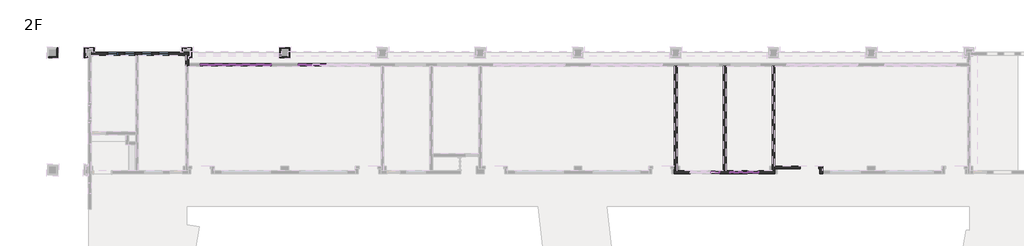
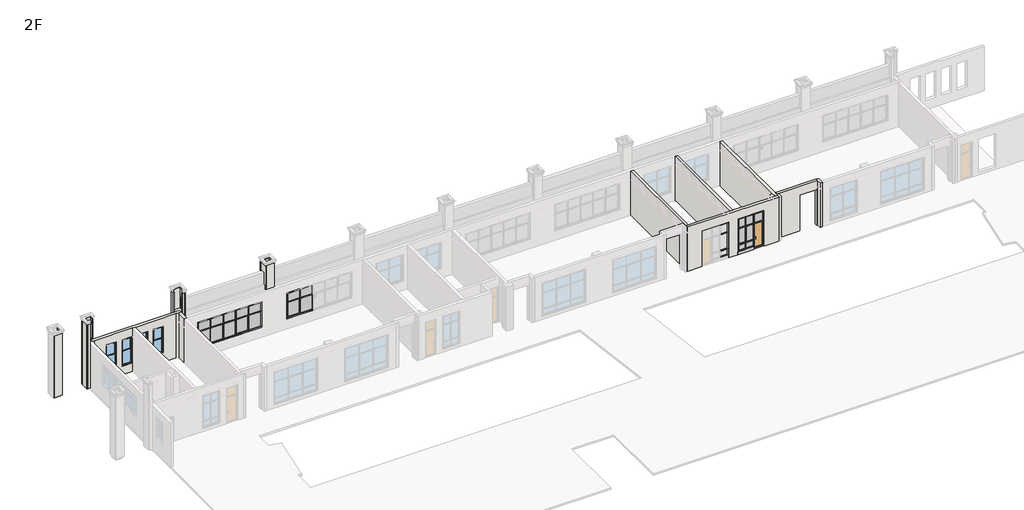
# One storey, part 5 of 16: 63 members, 22 walls, 18 plates, 4 windows, 1 door.
"""IFC4 building model written with IfcOpenShell, lengths in millimetres."""

from ifc_helpers import new_model, si_unit, frame, origin, place, context, project, spatial, polyline, outline, extrude, faceted_brep, transform, mapped, element, save
from components import door_980b777d, member_bb6b3e5c, member_c7345f5c, member_c89433b5, member_21953a3b, member_4507a15d, member_d4bc27cc, member_3251d295, member_9c26cac3, member_f9d68b3c, member_ef2f5788, member_68d13e3f, member_a211941a, member_adcc9943, member_f478ca5a, member_964d2677, member_b8dbbb25, member_8a69f4a4, member_fbd0fd80, member_b6ae775c, member_7564be38, member_1f4d75dd, member_0b7842ad, member_163d5e45, member_ffafc35e, member_2b011958, member_6c42befd, member_a374fdad, plate_457c613e, plate_cc9028c0, plate_1c3dccf0, plate_bfe47d88, plate_3a849303, plate_0b4a2fd4, plate_75e73fbb, plate_f4dba16c, plate_1cc4df2b, plate_4fa5932a, plate_00f9c624, lc1_lc1_4d7fae2d

model = new_model("IFC4")

# Units and contexts
model_context = context("Model", 3, world=origin())
ifc_project = project(units=[si_unit("LENGTHUNIT", "METRE", prefix="MILLI")], contexts=[model_context])

# Site, building, storey
site = spatial("IfcSite", under=ifc_project)
building = spatial("IfcBuilding", under=site)
storey = spatial("IfcBuildingStorey", under=building, Name="2F", Elevation=4200.0)

# Door
placement = place(None, origin())
door_shape = door_980b777d(model_context)
element("IfcDoor", 1, ObjectType="门嵌板_单开门2 : 门嵌板_单开门2", at=placement, inside=storey, context=model_context, shape_type="MappedRepresentation", body=[
    mapped(door_shape, transform((57300.0000032, 23399.6954639, 4300.0), x_axis=(1.0, 0.0, 0.0), y_axis=(0.0, 1.0, 0.0), z_axis=(0.0, 0.0, 1.0))),
])

# Members
member_shape = member_bb6b3e5c(model_context)
element("IfcMember", 2, ObjectType="矩形竖梃 : 教学楼 – 矩形竖梃 – 100x150mm", at=placement, inside=storey, context=model_context, shape_type="MappedRepresentation", body=[
    mapped(member_shape, transform((54599.9999997, 23399.6954639, 7600.0), x_axis=(0.0, 0.0, 1.0), y_axis=(0.0, -1.0, 0.0), z_axis=(1.0, 0.0, 0.0))),
])
member_2_shape = member_c7345f5c(model_context)
element("IfcMember", 3, ObjectType="矩形竖梃 : 教学楼 – 矩形竖梃 – 50x150mm", at=placement, inside=storey, context=model_context, shape_type="MappedRepresentation", body=[
    mapped(member_2_shape, transform((54499.9999997, 23399.6954639, 6625.0), x_axis=(0.0, 0.0, 1.0), y_axis=(0.0, -1.0, 0.0), z_axis=(1.0, 0.0, 0.0))),
])
element("IfcMember", 4, ObjectType="矩形竖梃 : 教学楼 – 矩形竖梃 – 50x150mm", at=placement, inside=storey, context=model_context, shape_type="MappedRepresentation", body=[
    mapped(member_2_shape, transform((54499.9999997, 23399.6954639, 5075.0), x_axis=(0.0, 0.0, 1.0), y_axis=(0.0, -1.0, 0.0), z_axis=(1.0, 0.0, 0.0))),
])
element("IfcMember", 5, ObjectType="矩形竖梃 : 教学楼 – 矩形竖梃 – 50x150mm", at=placement, inside=storey, context=model_context, shape_type="MappedRepresentation", body=[
    mapped(member_2_shape, transform((54499.9999997, 23399.6954639, 4500.0), x_axis=(0.0, 0.0, 1.0), y_axis=(0.0, -1.0, 0.0), z_axis=(1.0, 0.0, 0.0))),
])
member_3_shape = member_c89433b5(model_context)
element("IfcMember", 6, ObjectType="矩形竖梃 : 教学楼 – 矩形竖梃 – 100x150mm", at=placement, inside=storey, context=model_context, shape_type="MappedRepresentation", body=[
    mapped(member_3_shape, transform((54599.9999997, 23399.6954639, 6625.0), x_axis=(1.0, 0.0, 0.0), y_axis=(0.0, -1.0, 0.0), z_axis=(0.0, 0.0, -1.0))),
])
member_4_shape = member_21953a3b(model_context)
element("IfcMember", 7, ObjectType="矩形竖梃 : 教学楼 – 矩形竖梃 – 100x150mm", at=placement, inside=storey, context=model_context, shape_type="MappedRepresentation", body=[
    mapped(member_4_shape, transform((54599.9999997, 23399.6954639, 5075.0), x_axis=(1.0, 0.0, 0.0), y_axis=(0.0, -1.0, 0.0), z_axis=(0.0, 0.0, -1.0))),
])
member_5_shape = member_4507a15d(model_context)
element("IfcMember", 8, ObjectType="矩形竖梃 : 教学楼 – 矩形竖梃 – 100x150mm", at=placement, inside=storey, context=model_context, shape_type="MappedRepresentation", body=[
    mapped(member_5_shape, transform((54599.9999997, 23399.6954639, 4475.0), x_axis=(1.0, 0.0, 0.0), y_axis=(0.0, -1.0, 0.0), z_axis=(0.0, 0.0, -1.0))),
])
element("IfcMember", 9, ObjectType="矩形竖梃 : 教学楼 – 矩形竖梃 – 100x150mm", at=placement, inside=storey, context=model_context, shape_type="MappedRepresentation", body=[
    mapped(member_shape, transform((55400.0000029, 23399.6954639, 7600.0), x_axis=(0.0, 0.0, 1.0), y_axis=(0.0, 1.0, 0.0), z_axis=(-1.0, 0.0, 0.0))),
])
member_6_shape = member_d4bc27cc(model_context)
element("IfcMember", 10, ObjectType="矩形竖梃 : 教学楼 – 矩形竖梃 – 100x150mm", at=placement, inside=storey, context=model_context, shape_type="MappedRepresentation", body=[
    mapped(member_6_shape, transform((57800.0000032, 23399.6954639, 4200.0), x_axis=(0.0, 0.0, -1.0), y_axis=(0.0, 1.0, 0.0), z_axis=(1.0, 0.0, 0.0))),
])
member_7_shape = member_3251d295(model_context)
element("IfcMember", 11, ObjectType="矩形竖梃 : 教学楼 – 矩形竖梃 – 50x150mm", at=placement, inside=storey, context=model_context, shape_type="MappedRepresentation", body=[
    mapped(member_7_shape, transform((56875.0000032, 23399.6954639, 4300.0), x_axis=(-1.0, 0.0, 0.0), y_axis=(0.0, 1.0, 0.0), z_axis=(0.0, 0.0, -1.0))),
])
member_8_shape = member_9c26cac3(model_context)
element("IfcMember", 12, ObjectType="矩形竖梃 : 教学楼 – 矩形竖梃 – 50x150mm", at=placement, inside=storey, context=model_context, shape_type="MappedRepresentation", body=[
    mapped(member_8_shape, transform((56875.0000032, 23399.6954639, 6625.0), x_axis=(0.0, 0.0, 1.0), y_axis=(0.0, 1.0, 0.0), z_axis=(-1.0, 0.0, 0.0))),
])
member_9_shape = member_f9d68b3c(model_context)
element("IfcMember", 13, ObjectType="矩形竖梃 : 教学楼 – 矩形竖梃 – 50x150mm", at=placement, inside=storey, context=model_context, shape_type="MappedRepresentation", body=[
    mapped(member_9_shape, transform((56125.0000029, 23399.6954639, 6625.0), x_axis=(0.0, 0.0, 1.0), y_axis=(0.0, 1.0, 0.0), z_axis=(-1.0, 0.0, 0.0))),
])
element("IfcMember", 14, ObjectType="矩形竖梃 : 教学楼 – 矩形竖梃 – 50x150mm", at=placement, inside=storey, context=model_context, shape_type="MappedRepresentation", body=[
    mapped(member_2_shape, transform((55500.0000029, 23399.6954639, 6625.0), x_axis=(0.0, 0.0, 1.0), y_axis=(0.0, 1.0, 0.0), z_axis=(-1.0, 0.0, 0.0))),
])
element("IfcMember", 15, ObjectType="矩形竖梃 : 教学楼 – 矩形竖梃 – 50x150mm", at=placement, inside=storey, context=model_context, shape_type="MappedRepresentation", body=[
    mapped(member_2_shape, transform((55500.0000029, 23399.6954639, 5075.0), x_axis=(0.0, 0.0, 1.0), y_axis=(0.0, 1.0, 0.0), z_axis=(-1.0, 0.0, 0.0))),
])
element("IfcMember", 16, ObjectType="矩形竖梃 : 教学楼 – 矩形竖梃 – 50x150mm", at=placement, inside=storey, context=model_context, shape_type="MappedRepresentation", body=[
    mapped(member_2_shape, transform((55500.0000029, 23399.6954639, 4500.0), x_axis=(0.0, 0.0, 1.0), y_axis=(0.0, 1.0, 0.0), z_axis=(-1.0, 0.0, 0.0))),
])
member_10_shape = member_ef2f5788(model_context)
element("IfcMember", 17, ObjectType="矩形竖梃 : 教学楼 – 矩形竖梃 – 50x150mm", at=placement, inside=storey, context=model_context, shape_type="MappedRepresentation", body=[
    mapped(member_10_shape, transform((56125.0000029, 23399.6954639, 5075.0), x_axis=(0.0, 0.0, 1.0), y_axis=(0.0, 1.0, 0.0), z_axis=(-1.0, 0.0, 0.0))),
])
member_11_shape = member_68d13e3f(model_context)
element("IfcMember", 18, ObjectType="矩形竖梃 : 教学楼 – 矩形竖梃 – 50x150mm", at=placement, inside=storey, context=model_context, shape_type="MappedRepresentation", body=[
    mapped(member_11_shape, transform((56125.0000029, 23399.6954639, 4500.0), x_axis=(0.0, 0.0, 1.0), y_axis=(0.0, 1.0, 0.0), z_axis=(-1.0, 0.0, 0.0))),
])
member_12_shape = member_a211941a(model_context)
element("IfcMember", 19, ObjectType="矩形竖梃 : 教学楼 – 矩形竖梃 – 100x150mm", at=placement, inside=storey, context=model_context, shape_type="MappedRepresentation", body=[
    mapped(member_12_shape, transform((56875.0000032, 23399.6954639, 7600.0), x_axis=(0.0, 0.0, 1.0), y_axis=(0.0, 1.0, 0.0), z_axis=(-1.0, 0.0, 0.0))),
])
member_13_shape = member_adcc9943(model_context)
element("IfcMember", 20, ObjectType="矩形竖梃 : 教学楼 – 矩形竖梃 – 100x150mm", at=placement, inside=storey, context=model_context, shape_type="MappedRepresentation", body=[
    mapped(member_13_shape, transform((56125.0000029, 23399.6954639, 7600.0), x_axis=(0.0, 0.0, 1.0), y_axis=(0.0, 1.0, 0.0), z_axis=(-1.0, 0.0, 0.0))),
])
member_14_shape = member_f478ca5a(model_context)
element("IfcMember", 21, ObjectType="矩形竖梃 : 教学楼 – 矩形竖梃 – 50x150mm", at=placement, inside=storey, context=model_context, shape_type="MappedRepresentation", body=[
    mapped(member_14_shape, transform((56875.0000032, 23399.6954639, 6650.0), x_axis=(-1.0, 0.0, 0.0), y_axis=(0.0, 1.0, 0.0), z_axis=(0.0, 0.0, -1.0))),
])
element("IfcMember", 22, ObjectType="矩形竖梃 : 教学楼 – 矩形竖梃 – 50x150mm", at=placement, inside=storey, context=model_context, shape_type="MappedRepresentation", body=[
    mapped(member_14_shape, transform((56125.0000029, 23399.6954639, 6650.0), x_axis=(-1.0, 0.0, 0.0), y_axis=(0.0, 1.0, 0.0), z_axis=(0.0, 0.0, -1.0))),
])
member_15_shape = member_964d2677(model_context)
element("IfcMember", 23, ObjectType="矩形竖梃 : 教学楼 – 矩形竖梃 – 50x150mm", at=placement, inside=storey, context=model_context, shape_type="MappedRepresentation", body=[
    mapped(member_15_shape, transform((56875.0000032, 23399.6954639, 5100.0), x_axis=(-1.0, 0.0, 0.0), y_axis=(0.0, 1.0, 0.0), z_axis=(0.0, 0.0, -1.0))),
])
member_16_shape = member_b8dbbb25(model_context)
element("IfcMember", 24, ObjectType="矩形竖梃 : 教学楼 – 矩形竖梃 – 50x150mm", at=placement, inside=storey, context=model_context, shape_type="MappedRepresentation", body=[
    mapped(member_16_shape, transform((56875.0000032, 23399.6954639, 4500.0), x_axis=(-1.0, 0.0, 0.0), y_axis=(0.0, 1.0, 0.0), z_axis=(0.0, 0.0, -1.0))),
])
member_17_shape = member_8a69f4a4(model_context)
element("IfcMember", 25, ObjectType="矩形竖梃 : 教学楼 – 矩形竖梃 – 50x150mm", at=placement, inside=storey, context=model_context, shape_type="MappedRepresentation", body=[
    mapped(member_17_shape, transform((56125.0000029, 23399.6954639, 4525.0), x_axis=(-1.0, 0.0, 0.0), y_axis=(0.0, 1.0, 0.0), z_axis=(0.0, 0.0, -1.0))),
])
element("IfcMember", 26, ObjectType="矩形竖梃 : 教学楼 – 矩形竖梃 – 100x150mm", at=placement, inside=storey, context=model_context, shape_type="MappedRepresentation", body=[
    mapped(member_3_shape, transform((57800.0000032, 23399.6954639, 7500.0), x_axis=(1.0, 0.0, 0.0), y_axis=(0.0, 1.0, 0.0), z_axis=(0.0, 0.0, 1.0))),
])
element("IfcMember", 27, ObjectType="矩形竖梃 : 教学楼 – 矩形竖梃 – 100x150mm", at=placement, inside=storey, context=model_context, shape_type="MappedRepresentation", body=[
    mapped(member_3_shape, transform((55400.0000029, 23399.6954639, 6625.0), x_axis=(-1.0, 0.0, 0.0), y_axis=(0.0, 1.0, 0.0), z_axis=(0.0, 0.0, -1.0))),
])
element("IfcMember", 28, ObjectType="矩形竖梃 : 教学楼 – 矩形竖梃 – 100x150mm", at=placement, inside=storey, context=model_context, shape_type="MappedRepresentation", body=[
    mapped(member_4_shape, transform((55400.0000029, 23399.6954639, 5075.0), x_axis=(-1.0, 0.0, 0.0), y_axis=(0.0, 1.0, 0.0), z_axis=(0.0, 0.0, -1.0))),
])
element("IfcMember", 29, ObjectType="矩形竖梃 : 教学楼 – 矩形竖梃 – 100x150mm", at=placement, inside=storey, context=model_context, shape_type="MappedRepresentation", body=[
    mapped(member_5_shape, transform((55400.0000029, 23399.6954639, 4475.0), x_axis=(-1.0, 0.0, 0.0), y_axis=(0.0, 1.0, 0.0), z_axis=(0.0, 0.0, -1.0))),
])
element("IfcMember", 30, ObjectType="矩形竖梃 : 教学楼 – 矩形竖梃 – 100x150mm", at=placement, inside=storey, context=model_context, shape_type="MappedRepresentation", body=[
    mapped(member_4_shape, transform((57800.0000032, 23399.6954639, 6625.0), x_axis=(1.0, 0.0, 0.0), y_axis=(0.0, 1.0, 0.0), z_axis=(0.0, 0.0, 1.0))),
])
member_18_shape = member_fbd0fd80(model_context)
element("IfcMember", 31, ObjectType="矩形竖梃 : 教学楼 – 矩形竖梃 – 100x150mm", at=placement, inside=storey, context=model_context, shape_type="MappedRepresentation", body=[
    mapped(member_18_shape, transform((57800.0000032, 23399.6954639, 5075.0), x_axis=(1.0, 0.0, 0.0), y_axis=(0.0, 1.0, 0.0), z_axis=(0.0, 0.0, 1.0))),
])
member_19_shape = member_b6ae775c(model_context)
element("IfcMember", 32, ObjectType="矩形竖梃 : 教学楼 – 矩形竖梃 – 100x150mm", at=placement, inside=storey, context=model_context, shape_type="MappedRepresentation", body=[
    mapped(member_19_shape, transform((57800.0000032, 23399.6954639, 4500.0), x_axis=(1.0, 0.0, 0.0), y_axis=(0.0, 1.0, 0.0), z_axis=(0.0, 0.0, 1.0))),
])
member_20_shape = member_7564be38(model_context)
element("IfcMember", 33, ObjectType="矩形竖梃 : 教学楼 – 矩形竖梃 – 100x150mm", at=placement, inside=storey, context=model_context, shape_type="MappedRepresentation", body=[
    mapped(member_20_shape, transform((17900.0000002, 32210.0, 7600.0), x_axis=(0.0, 0.0, 1.0), y_axis=(0.0, -1.0, 0.0), z_axis=(1.0, 0.0, 0.0))),
])
element("IfcMember", 34, ObjectType="矩形竖梃 : 教学楼 – 矩形竖梃 – 100x150mm", at=placement, inside=storey, context=model_context, shape_type="MappedRepresentation", body=[
    mapped(member_20_shape, transform((12100.0000002, 32210.0, 5100.0), x_axis=(0.0, 0.0, -1.0), y_axis=(0.0, -1.0, 0.0), z_axis=(-1.0, 0.0, 0.0))),
])
element("IfcMember", 35, ObjectType="矩形竖梃 : 教学楼 – 矩形竖梃 – 100x150mm", at=placement, inside=storey, context=model_context, shape_type="MappedRepresentation", body=[
    mapped(member_20_shape, transform((20099.9999995, 32210.0, 5100.0), x_axis=(0.0, 0.0, -1.0), y_axis=(0.0, -1.0, 0.0), z_axis=(-1.0, 0.0, 0.0))),
])
member_21_shape = member_1f4d75dd(model_context)
element("IfcMember", 36, ObjectType="矩形竖梃 : 教学楼 – 矩形竖梃 – 50x150mm", at=placement, inside=storey, context=model_context, shape_type="MappedRepresentation", body=[
    mapped(member_21_shape, transform((14450.0000002, 32210.0, 5200.0), x_axis=(1.0, 0.0, 0.0), y_axis=(0.0, -1.0, 0.0), z_axis=(0.0, 0.0, -1.0))),
])
element("IfcMember", 37, ObjectType="矩形竖梃 : 教学楼 – 矩形竖梃 – 50x150mm", at=placement, inside=storey, context=model_context, shape_type="MappedRepresentation", body=[
    mapped(member_21_shape, transform((15550.0000002, 32210.0, 5200.0), x_axis=(1.0, 0.0, 0.0), y_axis=(0.0, -1.0, 0.0), z_axis=(0.0, 0.0, -1.0))),
])
member_22_shape = member_0b7842ad(model_context)
element("IfcMember", 38, ObjectType="矩形竖梃 : 教学楼 – 矩形竖梃 – 50x150mm", at=placement, inside=storey, context=model_context, shape_type="MappedRepresentation", body=[
    mapped(member_22_shape, transform((13300.0000002, 32210.0, 6650.0), x_axis=(0.0, 0.0, 1.0), y_axis=(0.0, -1.0, 0.0), z_axis=(1.0, 0.0, 0.0))),
])
element("IfcMember", 39, ObjectType="矩形竖梃 : 教学楼 – 矩形竖梃 – 50x150mm", at=placement, inside=storey, context=model_context, shape_type="MappedRepresentation", body=[
    mapped(member_22_shape, transform((21299.9999995, 32210.0, 6650.0), x_axis=(0.0, 0.0, 1.0), y_axis=(0.0, -1.0, 0.0), z_axis=(1.0, 0.0, 0.0))),
])
member_23_shape = member_163d5e45(model_context)
element("IfcMember", 40, ObjectType="矩形竖梃 : 教学楼 – 矩形竖梃 – 50x150mm", at=placement, inside=storey, context=model_context, shape_type="MappedRepresentation", body=[
    mapped(member_23_shape, transform((14450.0000002, 32210.0, 6650.0), x_axis=(0.0, 0.0, 1.0), y_axis=(0.0, -1.0, 0.0), z_axis=(1.0, 0.0, 0.0))),
])
element("IfcMember", 41, ObjectType="矩形竖梃 : 教学楼 – 矩形竖梃 – 50x150mm", at=placement, inside=storey, context=model_context, shape_type="MappedRepresentation", body=[
    mapped(member_23_shape, transform((16700.0000002, 32210.0, 6650.0), x_axis=(0.0, 0.0, 1.0), y_axis=(0.0, -1.0, 0.0), z_axis=(1.0, 0.0, 0.0))),
])
element("IfcMember", 42, ObjectType="矩形竖梃 : 教学楼 – 矩形竖梃 – 50x150mm", at=placement, inside=storey, context=model_context, shape_type="MappedRepresentation", body=[
    mapped(member_22_shape, transform((15550.0000002, 32210.0, 6650.0), x_axis=(0.0, 0.0, 1.0), y_axis=(0.0, -1.0, 0.0), z_axis=(1.0, 0.0, 0.0))),
])
element("IfcMember", 43, ObjectType="矩形竖梃 : 教学楼 – 矩形竖梃 – 50x150mm", at=placement, inside=storey, context=model_context, shape_type="MappedRepresentation", body=[
    mapped(member_22_shape, transform((17800.0000002, 32210.0, 6650.0), x_axis=(0.0, 0.0, 1.0), y_axis=(0.0, -1.0, 0.0), z_axis=(1.0, 0.0, 0.0))),
])
member_24_shape = member_ffafc35e(model_context)
element("IfcMember", 44, ObjectType="矩形竖梃 : 教学楼 – 矩形竖梃 – 100x150mm", at=placement, inside=storey, context=model_context, shape_type="MappedRepresentation", body=[
    mapped(member_24_shape, transform((13300.0000002, 32210.0, 5100.0), x_axis=(0.0, 0.0, -1.0), y_axis=(0.0, -1.0, 0.0), z_axis=(-1.0, 0.0, 0.0))),
])
element("IfcMember", 45, ObjectType="矩形竖梃 : 教学楼 – 矩形竖梃 – 100x150mm", at=placement, inside=storey, context=model_context, shape_type="MappedRepresentation", body=[
    mapped(member_24_shape, transform((21299.9999995, 32210.0, 5100.0), x_axis=(0.0, 0.0, -1.0), y_axis=(0.0, -1.0, 0.0), z_axis=(-1.0, 0.0, 0.0))),
])
member_25_shape = member_2b011958(model_context)
element("IfcMember", 46, ObjectType="矩形竖梃 : 教学楼 – 矩形竖梃 – 100x150mm", at=placement, inside=storey, context=model_context, shape_type="MappedRepresentation", body=[
    mapped(member_25_shape, transform((14450.0000002, 32210.0, 5100.0), x_axis=(0.0, 0.0, -1.0), y_axis=(0.0, -1.0, 0.0), z_axis=(-1.0, 0.0, 0.0))),
])
element("IfcMember", 47, ObjectType="矩形竖梃 : 教学楼 – 矩形竖梃 – 100x150mm", at=placement, inside=storey, context=model_context, shape_type="MappedRepresentation", body=[
    mapped(member_24_shape, transform((15550.0000002, 32210.0, 5100.0), x_axis=(0.0, 0.0, -1.0), y_axis=(0.0, -1.0, 0.0), z_axis=(-1.0, 0.0, 0.0))),
])
element("IfcMember", 48, ObjectType="矩形竖梃 : 教学楼 – 矩形竖梃 – 100x150mm", at=placement, inside=storey, context=model_context, shape_type="MappedRepresentation", body=[
    mapped(member_20_shape, transform((16700.0000002, 32210.0, 5100.0), x_axis=(0.0, 0.0, -1.0), y_axis=(0.0, -1.0, 0.0), z_axis=(-1.0, 0.0, 0.0))),
])
element("IfcMember", 49, ObjectType="矩形竖梃 : 教学楼 – 矩形竖梃 – 100x150mm", at=placement, inside=storey, context=model_context, shape_type="MappedRepresentation", body=[
    mapped(member_20_shape, transform((13300.0000002, 32210.0, 7600.0), x_axis=(0.0, 0.0, 1.0), y_axis=(0.0, -1.0, 0.0), z_axis=(1.0, 0.0, 0.0))),
])
element("IfcMember", 50, ObjectType="矩形竖梃 : 教学楼 – 矩形竖梃 – 100x150mm", at=placement, inside=storey, context=model_context, shape_type="MappedRepresentation", body=[
    mapped(member_20_shape, transform((21299.9999995, 32210.0, 7600.0), x_axis=(0.0, 0.0, 1.0), y_axis=(0.0, -1.0, 0.0), z_axis=(1.0, 0.0, 0.0))),
])
element("IfcMember", 51, ObjectType="矩形竖梃 : 教学楼 – 矩形竖梃 – 100x150mm", at=placement, inside=storey, context=model_context, shape_type="MappedRepresentation", body=[
    mapped(member_24_shape, transform((14450.0000002, 32210.0, 7600.0), x_axis=(0.0, 0.0, 1.0), y_axis=(0.0, -1.0, 0.0), z_axis=(1.0, 0.0, 0.0))),
])
element("IfcMember", 52, ObjectType="矩形竖梃 : 教学楼 – 矩形竖梃 – 100x150mm", at=placement, inside=storey, context=model_context, shape_type="MappedRepresentation", body=[
    mapped(member_24_shape, transform((16700.0000002, 32210.0, 7600.0), x_axis=(0.0, 0.0, 1.0), y_axis=(0.0, -1.0, 0.0), z_axis=(1.0, 0.0, 0.0))),
])
element("IfcMember", 53, ObjectType="矩形竖梃 : 教学楼 – 矩形竖梃 – 100x150mm", at=placement, inside=storey, context=model_context, shape_type="MappedRepresentation", body=[
    mapped(member_25_shape, transform((15550.0000002, 32210.0, 7600.0), x_axis=(0.0, 0.0, 1.0), y_axis=(0.0, -1.0, 0.0), z_axis=(1.0, 0.0, 0.0))),
])
element("IfcMember", 54, ObjectType="矩形竖梃 : 教学楼 – 矩形竖梃 – 50x150mm", at=placement, inside=storey, context=model_context, shape_type="MappedRepresentation", body=[
    mapped(member_8_shape, transform((13300.0000002, 32210.0, 6675.0), x_axis=(1.0, 0.0, 0.0), y_axis=(0.0, -1.0, 0.0), z_axis=(0.0, 0.0, -1.0))),
])
element("IfcMember", 55, ObjectType="矩形竖梃 : 教学楼 – 矩形竖梃 – 50x150mm", at=placement, inside=storey, context=model_context, shape_type="MappedRepresentation", body=[
    mapped(member_8_shape, transform((14450.0000002, 32210.0, 6675.0), x_axis=(1.0, 0.0, 0.0), y_axis=(0.0, -1.0, 0.0), z_axis=(0.0, 0.0, -1.0))),
])
element("IfcMember", 56, ObjectType="矩形竖梃 : 教学楼 – 矩形竖梃 – 50x150mm", at=placement, inside=storey, context=model_context, shape_type="MappedRepresentation", body=[
    mapped(member_8_shape, transform((15550.0000002, 32210.0, 6675.0), x_axis=(1.0, 0.0, 0.0), y_axis=(0.0, -1.0, 0.0), z_axis=(0.0, 0.0, -1.0))),
])
element("IfcMember", 57, ObjectType="矩形竖梃 : 教学楼 – 矩形竖梃 – 50x150mm", at=placement, inside=storey, context=model_context, shape_type="MappedRepresentation", body=[
    mapped(member_8_shape, transform((16700.0000002, 32210.0, 6675.0), x_axis=(1.0, 0.0, 0.0), y_axis=(0.0, -1.0, 0.0), z_axis=(0.0, 0.0, -1.0))),
])
element("IfcMember", 58, ObjectType="矩形竖梃 : 教学楼 – 矩形竖梃 – 50x150mm", at=placement, inside=storey, context=model_context, shape_type="MappedRepresentation", body=[
    mapped(member_8_shape, transform((21299.9999995, 32210.0, 6675.0), x_axis=(1.0, 0.0, 0.0), y_axis=(0.0, -1.0, 0.0), z_axis=(0.0, 0.0, -1.0))),
])
member_26_shape = member_6c42befd(model_context)
element("IfcMember", 59, ObjectType="矩形竖梃 : 教学楼 – 矩形竖梃 – 100x150mm", at=placement, inside=storey, context=model_context, shape_type="MappedRepresentation", body=[
    mapped(member_26_shape, transform((12100.0000002, 32210.0, 7500.0), x_axis=(-1.0, 0.0, 0.0), y_axis=(0.0, -1.0, 0.0), z_axis=(0.0, 0.0, 1.0))),
])
element("IfcMember", 60, ObjectType="矩形竖梃 : 教学楼 – 矩形竖梃 – 100x150mm", at=placement, inside=storey, context=model_context, shape_type="MappedRepresentation", body=[
    mapped(member_26_shape, transform((20099.9999995, 32210.0, 7500.0), x_axis=(-1.0, 0.0, 0.0), y_axis=(0.0, -1.0, 0.0), z_axis=(0.0, 0.0, 1.0))),
])
member_27_shape = member_a374fdad(model_context)
element("IfcMember", 61, ObjectType="矩形竖梃 : 教学楼 – 矩形竖梃 – 100x150mm", at=placement, inside=storey, context=model_context, shape_type="MappedRepresentation", body=[
    mapped(member_27_shape, transform((17900.0000002, 32210.0, 5200.0), x_axis=(1.0, 0.0, 0.0), y_axis=(0.0, -1.0, 0.0), z_axis=(0.0, 0.0, -1.0))),
])
element("IfcMember", 62, ObjectType="矩形竖梃 : 教学楼 – 矩形竖梃 – 100x150mm", at=placement, inside=storey, context=model_context, shape_type="MappedRepresentation", body=[
    mapped(member_26_shape, transform((17900.0000002, 32210.0, 6650.0), x_axis=(1.0, 0.0, 0.0), y_axis=(0.0, -1.0, 0.0), z_axis=(0.0, 0.0, -1.0))),
])
element("IfcMember", 63, ObjectType="矩形竖梃 : 教学楼 – 矩形竖梃 – 100x150mm", at=placement, inside=storey, context=model_context, shape_type="MappedRepresentation", body=[
    mapped(member_27_shape, transform((12100.0000002, 32210.0, 6650.0), x_axis=(-1.0, 0.0, 0.0), y_axis=(0.0, -1.0, 0.0), z_axis=(0.0, 0.0, 1.0))),
])
element("IfcMember", 64, ObjectType="矩形竖梃 : 教学楼 – 矩形竖梃 – 100x150mm", at=placement, inside=storey, context=model_context, shape_type="MappedRepresentation", body=[
    mapped(member_27_shape, transform((20099.9999995, 32210.0, 6650.0), x_axis=(-1.0, 0.0, 0.0), y_axis=(0.0, -1.0, 0.0), z_axis=(0.0, 0.0, 1.0))),
])

# Plates
element("IfcPlate", 65, ObjectType="教学楼 – 涂料内墙 – 200mm", at=placement, inside=storey, context=model_context, shape_type="SweptSolid", body=[
    extrude(outline(polyline([(55400.0000029, 23516.6954639), (56850.0000032, 23516.6954639), (56850.0000032, 23282.6954639), (55400.0000029, 23282.6954639), (55400.0000029, 23516.6954639)])), frame((0.0, 0.0, 4200.0), z_axis=(0.0, 0.0, 1.0), x_axis=(1.0, 0.0, 0.0)), (0.0, 0.0, 1.0), 275.0),
])
plate_shape = plate_457c613e(model_context)
element("IfcPlate", 66, ObjectType="系统嵌板 : 玻璃", at=placement, inside=storey, context=model_context, shape_type="MappedRepresentation", body=[
    mapped(plate_shape, transform((57300.0000032, 23399.6954639, 6650.0), x_axis=(-1.0, 0.0, 0.0), y_axis=(0.0, -1.0, 0.0), z_axis=(0.0, 0.0, 1.0))),
])
plate_2_shape = plate_cc9028c0(model_context)
element("IfcPlate", 67, ObjectType="系统嵌板 : 玻璃", at=placement, inside=storey, context=model_context, shape_type="MappedRepresentation", body=[
    mapped(plate_2_shape, transform((56500.000003, 23399.6954639, 6650.0), x_axis=(-1.0, 0.0, 0.0), y_axis=(0.0, -1.0, 0.0), z_axis=(0.0, 0.0, 1.0))),
])
plate_3_shape = plate_1c3dccf0(model_context)
element("IfcPlate", 68, ObjectType="系统嵌板 : 玻璃", at=placement, inside=storey, context=model_context, shape_type="MappedRepresentation", body=[
    mapped(plate_3_shape, transform((55800.0000029, 23399.6954639, 6650.0), x_axis=(-1.0, 0.0, 0.0), y_axis=(0.0, -1.0, 0.0), z_axis=(0.0, 0.0, 1.0))),
])
plate_4_shape = plate_bfe47d88(model_context)
element("IfcPlate", 69, ObjectType="教学楼 - 窗嵌板：双扇推拉窗 : 教学楼 - 窗嵌板：双扇推拉窗", at=placement, inside=storey, context=model_context, shape_type="MappedRepresentation", body=[
    mapped(plate_4_shape, transform((56175.000003, 23399.6954639, 5100.0), x_axis=(-1.0, 0.0, 0.0), y_axis=(0.0, -1.0, 0.0), z_axis=(0.0, 0.0, 1.0))),
])
plate_5_shape = plate_3a849303(model_context)
element("IfcPlate", 70, ObjectType="系统嵌板 : 玻璃", at=placement, inside=storey, context=model_context, shape_type="MappedRepresentation", body=[
    mapped(plate_5_shape, transform((56500.000003, 23399.6954639, 4525.0), x_axis=(-1.0, 0.0, 0.0), y_axis=(0.0, -1.0, 0.0), z_axis=(0.0, 0.0, 1.0))),
])
plate_6_shape = plate_0b4a2fd4(model_context)
element("IfcPlate", 71, ObjectType="系统嵌板 : 玻璃", at=placement, inside=storey, context=model_context, shape_type="MappedRepresentation", body=[
    mapped(plate_6_shape, transform((55800.0000029, 23399.6954639, 4525.0), x_axis=(-1.0, 0.0, 0.0), y_axis=(0.0, -1.0, 0.0), z_axis=(0.0, 0.0, 1.0))),
])
plate_7_shape = plate_75e73fbb(model_context)
element("IfcPlate", 72, ObjectType="教学楼 - 窗嵌板：双扇推拉窗 : 教学楼 - 窗嵌板：双扇推拉窗", at=placement, inside=storey, context=model_context, shape_type="MappedRepresentation", body=[
    mapped(plate_7_shape, transform((13312.5000002, 32210.0, 5200.0), x_axis=(1.0, 0.0, 0.0), y_axis=(0.0, 1.0, 0.0), z_axis=(0.0, 0.0, 1.0))),
])
element("IfcPlate", 73, ObjectType="教学楼 - 窗嵌板：双扇推拉窗 : 教学楼 - 窗嵌板：双扇推拉窗", at=placement, inside=storey, context=model_context, shape_type="MappedRepresentation", body=[
    mapped(plate_7_shape, transform((21312.4999995, 32210.0, 5200.0), x_axis=(1.0, 0.0, 0.0), y_axis=(0.0, 1.0, 0.0), z_axis=(0.0, 0.0, 1.0))),
])
plate_8_shape = plate_f4dba16c(model_context)
element("IfcPlate", 74, ObjectType="系统嵌板 : 玻璃", at=placement, inside=storey, context=model_context, shape_type="MappedRepresentation", body=[
    mapped(plate_8_shape, transform((15000.0000002, 32210.0, 5200.0), x_axis=(1.0, 0.0, 0.0), y_axis=(0.0, 1.0, 0.0), z_axis=(0.0, 0.0, 1.0))),
])
element("IfcPlate", 75, ObjectType="教学楼 - 窗嵌板：双扇推拉窗 : 教学楼 - 窗嵌板：双扇推拉窗", at=placement, inside=storey, context=model_context, shape_type="MappedRepresentation", body=[
    mapped(plate_7_shape, transform((16687.5000002, 32210.0, 5200.0), x_axis=(1.0, 0.0, 0.0), y_axis=(0.0, 1.0, 0.0), z_axis=(0.0, 0.0, 1.0))),
])
plate_9_shape = plate_1cc4df2b(model_context)
element("IfcPlate", 76, ObjectType="系统嵌板 : 玻璃", at=placement, inside=storey, context=model_context, shape_type="MappedRepresentation", body=[
    mapped(plate_9_shape, transform((12737.5000002, 32210.0, 6675.0), x_axis=(1.0, 0.0, 0.0), y_axis=(0.0, 1.0, 0.0), z_axis=(0.0, 0.0, 1.0))),
])
element("IfcPlate", 77, ObjectType="系统嵌板 : 玻璃", at=placement, inside=storey, context=model_context, shape_type="MappedRepresentation", body=[
    mapped(plate_9_shape, transform((17262.5000002, 32210.0, 6675.0), x_axis=(1.0, 0.0, 0.0), y_axis=(0.0, 1.0, 0.0), z_axis=(0.0, 0.0, 1.0))),
])
element("IfcPlate", 78, ObjectType="系统嵌板 : 玻璃", at=placement, inside=storey, context=model_context, shape_type="MappedRepresentation", body=[
    mapped(plate_9_shape, transform((20737.4999995, 32210.0, 6675.0), x_axis=(1.0, 0.0, 0.0), y_axis=(0.0, 1.0, 0.0), z_axis=(0.0, 0.0, 1.0))),
])
plate_10_shape = plate_4fa5932a(model_context)
element("IfcPlate", 79, ObjectType="系统嵌板 : 玻璃", at=placement, inside=storey, context=model_context, shape_type="MappedRepresentation", body=[
    mapped(plate_10_shape, transform((13875.0000002, 32210.0, 6675.0), x_axis=(1.0, 0.0, 0.0), y_axis=(0.0, 1.0, 0.0), z_axis=(0.0, 0.0, 1.0))),
])
element("IfcPlate", 80, ObjectType="系统嵌板 : 玻璃", at=placement, inside=storey, context=model_context, shape_type="MappedRepresentation", body=[
    mapped(plate_10_shape, transform((16125.0000002, 32210.0, 6675.0), x_axis=(1.0, 0.0, 0.0), y_axis=(0.0, 1.0, 0.0), z_axis=(0.0, 0.0, 1.0))),
])
element("IfcPlate", 81, ObjectType="系统嵌板 : 玻璃", at=placement, inside=storey, context=model_context, shape_type="MappedRepresentation", body=[
    mapped(plate_10_shape, transform((21874.9999995, 32210.0, 6675.0), x_axis=(1.0, 0.0, 0.0), y_axis=(0.0, 1.0, 0.0), z_axis=(0.0, 0.0, 1.0))),
])
plate_11_shape = plate_00f9c624(model_context)
element("IfcPlate", 82, ObjectType="系统嵌板 : 玻璃", at=placement, inside=storey, context=model_context, shape_type="MappedRepresentation", body=[
    mapped(plate_11_shape, transform((15000.0000002, 32210.0, 6675.0), x_axis=(1.0, 0.0, 0.0), y_axis=(0.0, 1.0, 0.0), z_axis=(0.0, 0.0, 1.0))),
])

# Walls
element("IfcWall", 83, ObjectType="教学楼 – 饰面砖外墙 – 200mm", at=placement, inside=storey, context=model_context, shape_type="Brep", body=[
    faceted_brep([(3167.0000002, 32982.6954639, 4200.0), (3300.0, 32982.6954639, 4200.0), (6783.0000003, 32982.6954639, 4200.0), (7017.0000003, 32982.6954639, 4200.0), (10700.0, 32982.6954639, 4200.0), (10883.0, 32982.6954639, 4200.0), (11133.0, 32982.6954639, 4200.0), (11133.0, 32982.6954639, 8400.0), (10883.0, 32982.6954639, 8400.0), (10700.0, 32982.6954639, 8400.0), (7017.0000003, 32982.6954639, 8400.0), (6783.0000003, 32982.6954639, 8400.0), (3300.0, 32982.6954639, 8400.0), (3167.0000002, 32982.6954639, 8400.0), (8649.9999969, 32982.6954639, 5100.0), (8649.9999969, 32982.6954639, 7600.0), (9549.9999969, 32982.6954639, 7600.0), (9549.9999969, 32982.6954639, 5100.0), (7249.9999993, 32982.6954639, 5100.0), (7249.9999993, 32982.6954639, 7600.0), (8149.9999993, 32982.6954639, 7600.0), (8149.9999993, 32982.6954639, 5100.0), (5849.9999969, 32982.6954639, 5100.0), (5849.9999969, 32982.6954639, 7600.0), (6749.9999969, 32982.6954639, 7600.0), (6749.9999969, 32982.6954639, 5100.0), (4450.0000018, 32982.6954639, 5100.0), (4450.0000018, 32982.6954639, 7600.0), (5350.0000018, 32982.6954639, 7600.0), (5350.0000018, 32982.6954639, 5100.0), (3167.0000002, 33232.6954639, 4200.0), (3167.0000002, 33232.6954639, 8400.0), (3300.0, 33232.6954639, 8400.0), (10700.0, 33232.6954639, 8400.0), (11133.0, 33232.6954639, 8400.0), (11133.0, 33232.6954639, 4200.0), (10700.0, 33232.6954639, 4200.0), (10650.0, 33232.6954639, 4200.0), (10600.0, 33232.6954639, 4200.0), (3300.0, 33232.6954639, 4200.0), (8649.9999969, 33232.6954639, 5100.0), (9549.9999969, 33232.6954639, 5100.0), (9549.9999969, 33232.6954639, 7600.0), (8649.9999969, 33232.6954639, 7600.0), (7249.9999993, 33232.6954639, 5100.0), (8149.9999993, 33232.6954639, 5100.0), (8149.9999993, 33232.6954639, 7600.0), (7249.9999993, 33232.6954639, 7600.0), (5849.9999969, 33232.6954639, 5100.0), (6749.9999969, 33232.6954639, 5100.0), (6749.9999969, 33232.6954639, 7600.0), (5849.9999969, 33232.6954639, 7600.0), (4450.0000018, 33232.6954639, 5100.0), (5350.0000018, 33232.6954639, 5100.0), (5350.0000018, 33232.6954639, 7600.0), (4450.0000018, 33232.6954639, 7600.0)], [[[0, 1, 2, 3, 4, 5, 6, 7, 8, 9, 10, 11, 12, 13], [14, 15, 16, 17], [18, 19, 20, 21], [22, 23, 24, 25], [26, 27, 28, 29]], [[30, 31, 32, 33, 34, 35, 36, 37, 38, 39], [40, 41, 42, 43], [44, 45, 46, 47], [48, 49, 50, 51], [52, 53, 54, 55]], [[6, 5, 4, 3, 2, 1, 0, 30, 39, 38, 37, 36, 35]], [[13, 12, 11, 10, 9, 8, 7, 34, 33, 32, 31]], [[0, 13, 31, 30]], [[7, 6, 35, 34]], [[15, 14, 40, 43]], [[16, 15, 43, 42]], [[17, 16, 42, 41]], [[14, 17, 41, 40]], [[19, 18, 44, 47]], [[20, 19, 47, 46]], [[21, 20, 46, 45]], [[18, 21, 45, 44]], [[23, 22, 48, 51]], [[24, 23, 51, 50]], [[25, 24, 50, 49]], [[22, 25, 49, 48]], [[27, 26, 52, 55]], [[28, 27, 55, 54]], [[29, 28, 54, 53]], [[26, 29, 53, 52]]]),
])
element("IfcWall", 84, ObjectType="教学楼 – 饰面砖外墙 – 200mm", at=placement, inside=storey, context=model_context, shape_type="Brep", body=[
    faceted_brep([(10883.0, 32982.6954639, 4200.0), (10883.0, 32900.0, 4200.0), (10883.0, 32075.0, 4200.0), (10883.0, 32075.0, 8400.0), (10883.0, 32900.0, 8400.0), (10883.0, 32982.6954639, 8400.0), (11133.0, 32982.6954639, 4200.0), (11133.0, 32982.6954639, 8400.0), (11133.0, 32900.0, 8400.0), (11133.0, 32325.0, 8400.0), (11133.0, 32075.0, 8400.0), (11133.0, 32075.0, 4200.0), (11133.0, 32325.0, 4200.0), (11133.0, 32800.0, 4200.0), (11133.0, 32850.0, 4200.0), (11133.0, 32900.0, 4200.0), (11117.0, 32075.0, 4200.0), (11117.0, 32075.0, 8400.0)], [[[0, 1, 2, 3, 4, 5]], [[6, 7, 8, 9, 10, 11, 12, 13, 14, 15]], [[2, 1, 0, 6, 15, 14, 13, 12, 11, 16]], [[5, 4, 3, 17, 10, 9, 8, 7]], [[0, 5, 7, 6]], [[3, 2, 16, 11, 10, 17]]]),
])
element("IfcWall", 85, ObjectType="教学楼 – 涂料内墙 – 200mm", at=placement, inside=storey, context=model_context, shape_type="Brep", body=[
    faceted_brep([(50883.0, 32075.0, 4200.0), (50883.0, 23917.0, 4200.0), (50883.0, 23916.7231007, 4200.0), (50883.0, 23682.7231007, 4200.0), (50883.0, 23516.6954639, 4200.0), (50883.0, 23516.6954639, 8400.0), (50883.0, 23682.7231007, 8400.0), (50883.0, 23916.7231007, 8400.0), (50883.0, 23917.0, 8400.0), (50883.0, 32075.0, 8400.0), (51117.0, 32075.0, 4200.0), (51117.0, 32075.0, 8400.0), (51117.0, 23917.0, 8400.0), (51117.0, 23516.6954639, 8400.0), (51117.0, 23516.6954639, 4200.0), (51117.0, 23917.0, 4200.0)], [[[0, 1, 2, 3, 4, 5, 6, 7, 8, 9]], [[10, 11, 12, 13, 14, 15]], [[4, 3, 2, 1, 0, 10, 15, 14]], [[9, 8, 7, 6, 5, 13, 12, 11]], [[5, 4, 14, 13]], [[0, 9, 11, 10]]]),
])
element("IfcWall", 86, ObjectType="教学楼 – 涂料内墙 – 200mm", at=placement, inside=storey, context=model_context, shape_type="SweptSolid", body=[
    extrude(outline(polyline([(54883.0000001, 23516.6954639), (54883.0000001, 32075.0), (55117.0000001, 32075.0), (55117.0000001, 23516.6954639), (54883.0000001, 23516.6954639)])), frame((0.0, 0.0, 4200.0), z_axis=(0.0, 0.0, 1.0), x_axis=(1.0, 0.0, 0.0)), (0.0, 0.0, 1.0), 4200.0),
])
element("IfcWall", 87, ObjectType="教学楼 – 涂料内墙 – 200mm", at=placement, inside=storey, context=model_context, shape_type="Brep", body=[
    faceted_brep([(58883.0, 32075.0, 4200.0), (58883.0, 23917.0, 4200.0), (58883.0, 23516.6954639, 4200.0), (58883.0, 23516.6954639, 8400.0), (58883.0, 23917.0, 8400.0), (58883.0, 32075.0, 8400.0), (59117.0, 32075.0, 4200.0), (59117.0, 32075.0, 8400.0), (59117.0, 23917.0, 8400.0), (59117.0, 23916.7231012, 8400.0), (59117.0, 23682.7231012, 8400.0), (59117.0, 23516.6954639, 8400.0), (59117.0, 23516.6954639, 4200.0), (59117.0, 23682.7231012, 4200.0), (59117.0, 23916.7231012, 4200.0), (59117.0, 23917.0, 4200.0)], [[[0, 1, 2, 3, 4, 5]], [[6, 7, 8, 9, 10, 11, 12, 13, 14, 15]], [[2, 1, 0, 6, 15, 14, 13, 12]], [[5, 4, 3, 11, 10, 9, 8, 7]], [[3, 2, 12, 11]], [[0, 5, 7, 6]]]),
])
element("IfcWall", 88, ObjectType="教学楼 – 涂料内墙 – 200mm", at=placement, inside=storey, context=model_context, shape_type="Brep", body=[
    faceted_brep([(63017.0000002, 23282.6954638, 4200.0), (63017.0000002, 23516.6954638, 4200.0), (63017.0000002, 23916.7231012, 4200.0), (63017.0000002, 23916.7231012, 8400.0), (63017.0000002, 23516.6954638, 8400.0), (63017.0000002, 23282.6954638, 8400.0), (62783.0000002, 23282.6954638, 4200.0), (62783.0000002, 23282.6954638, 8400.0), (62783.0000002, 23682.7231012, 8400.0), (62783.0000002, 23916.7231012, 8400.0), (62783.0000002, 23916.7231012, 4200.0), (62783.0000002, 23682.7231012, 4200.0)], [[[0, 1, 2, 3, 4, 5]], [[6, 7, 8, 9, 10, 11]], [[2, 1, 0, 6, 11, 10]], [[5, 4, 3, 9, 8, 7]], [[3, 2, 10, 9]], [[0, 5, 7, 6]]]),
])
element("IfcWall", 89, ObjectType="教学楼 – 涂料内墙 – 200mm", at=placement, inside=storey, context=model_context, shape_type="Brep", body=[
    faceted_brep([(59117.0, 23916.7231012, 8400.0), (59317.0, 23916.7231012, 8400.0), (62783.0000002, 23916.7231012, 8400.0), (62783.0000002, 23916.7231012, 4200.0), (62700.0000004, 23916.7231012, 4200.0), (62700.0000004, 23916.7231012, 7600.0), (61200.0000004, 23916.7231012, 7600.0), (61200.0000004, 23916.7231012, 4200.0), (59317.0, 23916.7231012, 4200.0), (59117.0, 23916.7231012, 4200.0), (62783.0000002, 23682.7231012, 8400.0), (59317.0, 23682.7231012, 8400.0), (59117.0, 23682.7231012, 8400.0), (59117.0, 23682.7231012, 4200.0), (59317.0, 23682.7231012, 4200.0), (61200.0000004, 23682.7231012, 4200.0), (61200.0000004, 23682.7231012, 7600.0), (62700.0000004, 23682.7231012, 7600.0), (62700.0000004, 23682.7231012, 4200.0), (62783.0000002, 23682.7231012, 4200.0)], [[[0, 1, 2, 3, 4, 5, 6, 7, 8, 9]], [[10, 11, 12, 13, 14, 15, 16, 17, 18, 19]], [[3, 19, 18, 4]], [[13, 9, 8, 7, 15, 14]], [[2, 1, 0, 12, 11, 10]], [[3, 2, 10, 19]], [[0, 9, 13, 12]], [[6, 16, 15, 7]], [[16, 6, 5, 17]], [[17, 5, 4, 18]]]),
])
element("IfcWall", 90, ObjectType="教学楼 – 涂料内墙 – 200mm", at=placement, inside=storey, context=model_context, shape_type="Brep", body=[
    faceted_brep([(59117.0, 23282.6954639, 8400.0), (50883.0, 23282.6954639, 8400.0), (50883.0, 23282.6954639, 4200.0), (52199.9999993, 23282.6954639, 4200.0), (52199.9999993, 23282.6954639, 7600.0), (54599.9999997, 23282.6954639, 7600.0), (54599.9999997, 23282.6954639, 4200.0), (55400.0000029, 23282.6954639, 4200.0), (55400.0000029, 23282.6954639, 7600.0), (57800.0000032, 23282.6954639, 7600.0), (57800.0000032, 23282.6954639, 4200.0), (59117.0, 23282.6954639, 4200.0), (50883.0, 23516.6954639, 8400.0), (51117.0, 23516.6954639, 8400.0), (51317.0, 23516.6954639, 8400.0), (54883.0000001, 23516.6954639, 8400.0), (55117.0000001, 23516.6954639, 8400.0), (58683.0, 23516.6954639, 8400.0), (58883.0, 23516.6954639, 8400.0), (59117.0, 23516.6954639, 8400.0), (59117.0, 23516.6954639, 4200.0), (58883.0, 23516.6954639, 4200.0), (58683.0, 23516.6954639, 4200.0), (57800.0000032, 23516.6954639, 4200.0), (57800.0000032, 23516.6954639, 7600.0), (55400.0000029, 23516.6954639, 7600.0), (55400.0000029, 23516.6954639, 4200.0), (55117.0000001, 23516.6954639, 4200.0), (54883.0000001, 23516.6954639, 4200.0), (54599.9999997, 23516.6954639, 4200.0), (54599.9999997, 23516.6954639, 7600.0), (52199.9999993, 23516.6954639, 7600.0), (52199.9999993, 23516.6954639, 4200.0), (51317.0, 23516.6954639, 4200.0), (51117.0, 23516.6954639, 4200.0), (50883.0, 23516.6954639, 4200.0), (59117.0, 23283.0, 4200.0), (50883.0, 23283.0, 4200.0), (59117.0, 23283.0, 8400.0), (50883.0, 23283.0, 8400.0)], [[[0, 1, 2, 3, 4, 5, 6, 7, 8, 9, 10, 11]], [[12, 13, 14, 15, 16, 17, 18, 19, 20, 21, 22, 23, 24, 25, 26, 27, 28, 29, 30, 31, 32, 33, 34, 35]], [[20, 36, 11, 10, 23, 22, 21]], [[2, 37, 35, 34, 33, 32, 3]], [[26, 7, 6, 29, 28, 27]], [[1, 0, 38, 19, 18, 17, 16, 15, 14, 13, 12, 39]], [[2, 1, 39, 12, 35, 37]], [[0, 11, 36, 20, 19, 38]], [[9, 24, 23, 10]], [[24, 9, 8, 25]], [[25, 8, 7, 26]], [[31, 4, 3, 32]], [[4, 31, 30, 5]], [[5, 30, 29, 6]]]),
])
element("IfcWall", 91, ObjectType="教学楼 - 浅驼色装饰板 - 50mm", at=placement, inside=storey, context=model_context, shape_type="Brep", body=[
    faceted_brep([(400.0, 32850.0, 4400.0), (350.0, 32850.0, 4400.0), (-350.0, 32850.0, 4400.0), (-350.0, 32850.0, 10300.0), (350.0, 32850.0, 10300.0), (400.0, 32850.0, 10300.0), (400.0, 32800.0, 4400.0), (400.0, 32800.0, 10300.0), (-350.0, 32800.0, 10300.0), (-350.0, 32800.0, 4400.0)], [[[0, 1, 2, 3, 4, 5]], [[6, 7, 8, 9]], [[2, 1, 0, 6, 9]], [[5, 4, 3, 8, 7]], [[0, 5, 7, 6]], [[3, 2, 9, 8]]]),
])
element("IfcWall", 92, ObjectType="教学楼 - 浅驼色装饰板 - 50mm", at=placement, inside=storey, context=model_context, shape_type="Brep", body=[
    faceted_brep([(350.0, 33600.0, 4400.0), (350.0, 33550.0, 4400.0), (350.0, 32850.0, 4400.0), (350.0, 32850.0, 10300.0), (350.0, 33550.0, 10300.0), (350.0, 33600.0, 10300.0), (400.0, 33600.0, 4400.0), (400.0, 33600.0, 10300.0), (400.0, 32850.0, 10300.0), (400.0, 32850.0, 4400.0)], [[[0, 1, 2, 3, 4, 5]], [[6, 7, 8, 9]], [[2, 1, 0, 6, 9]], [[5, 4, 3, 8, 7]], [[0, 5, 7, 6]], [[3, 2, 9, 8]]]),
])
element("IfcWall", 93, ObjectType="教学楼 - 浅驼色装饰板 - 50mm", at=placement, inside=storey, context=model_context, shape_type="Brep", body=[
    faceted_brep([(3400.0, 33252.6954639, 4200.0), (3400.0, 33600.0, 4200.0), (3400.0, 33600.0, 10300.0), (3400.0, 33252.6954639, 10300.0), (3350.0, 33252.6954639, 4200.0), (3350.0, 33252.6954639, 10300.0), (3350.0, 33550.0, 10300.0), (3350.0, 33600.0, 10300.0), (3350.0, 33600.0, 4200.0), (3350.0, 33550.0, 4200.0)], [[[0, 1, 2, 3]], [[4, 5, 6, 7, 8, 9]], [[1, 0, 4, 9, 8]], [[3, 2, 7, 6, 5]], [[0, 3, 5, 4]], [[2, 1, 8, 7]]]),
])
element("IfcWall", 94, ObjectType="教学楼 - 浅驼色装饰板 - 50mm", at=placement, inside=storey, context=model_context, shape_type="Brep", body=[
    faceted_brep([(3350.0, 33600.0, 4200.0), (2600.0, 33600.0, 4200.0), (2600.0, 33600.0, 10300.0), (3350.0, 33600.0, 10300.0), (3350.0, 33550.0, 4200.0), (3350.0, 33550.0, 10300.0), (2650.0, 33550.0, 10300.0), (2600.0, 33550.0, 10300.0), (2600.0, 33550.0, 4200.0), (2650.0, 33550.0, 4200.0)], [[[0, 1, 2, 3]], [[4, 5, 6, 7, 8, 9]], [[1, 0, 4, 9, 8]], [[3, 2, 7, 6, 5]], [[0, 3, 5, 4]], [[2, 1, 8, 7]]]),
])
element("IfcWall", 95, ObjectType="教学楼 - 浅驼色装饰板 - 50mm", at=placement, inside=storey, context=model_context, shape_type="Brep", body=[
    faceted_brep([(2600.0, 33550.0, 4200.0), (2600.0, 32800.0, 4200.0), (2600.0, 32800.0, 10300.0), (2600.0, 33550.0, 10300.0), (2650.0, 33550.0, 4200.0), (2650.0, 33550.0, 10300.0), (2650.0, 32850.0, 10300.0), (2650.0, 32800.0, 10300.0), (2650.0, 32800.0, 4200.0), (2650.0, 32850.0, 4200.0)], [[[0, 1, 2, 3]], [[4, 5, 6, 7, 8, 9]], [[1, 0, 4, 9, 8]], [[3, 2, 7, 6, 5]], [[0, 3, 5, 4]], [[2, 1, 8, 7]]]),
])
element("IfcWall", 96, ObjectType="教学楼 - 浅驼色装饰板 - 50mm", at=placement, inside=storey, context=model_context, shape_type="SweptSolid", body=[
    extrude(outline(polyline([(2897.0000002, 32800.0), (2650.0, 32800.0), (2650.0, 32850.0), (2897.0000002, 32850.0), (2897.0000002, 32800.0)])), frame((0.0, 0.0, 4200.0), z_axis=(0.0, 0.0, 1.0), x_axis=(1.0, 0.0, 0.0)), (0.0, 0.0, 1.0), 6100.0),
])
element("IfcWall", 97, ObjectType="教学楼 - 浅驼色装饰板 - 50mm", at=placement, inside=storey, context=model_context, shape_type="Brep", body=[
    faceted_brep([(10650.0, 33232.6954639, 10300.0), (10650.0, 33232.6954639, 4200.0), (10650.0, 33550.0, 4200.0), (10650.0, 33600.0, 4200.0), (10650.0, 33600.0, 10300.0), (10650.0, 33550.0, 10300.0), (10600.0, 33232.6954639, 4200.0), (10600.0, 33232.6954639, 10300.0), (10600.0, 33600.0, 10300.0), (10600.0, 33600.0, 4200.0)], [[[0, 1, 2, 3, 4, 5]], [[6, 7, 8, 9]], [[3, 2, 1, 6, 9]], [[0, 5, 4, 8, 7]], [[0, 7, 6, 1]], [[4, 3, 9, 8]]]),
])
element("IfcWall", 98, ObjectType="教学楼 - 浅驼色装饰板 - 50mm", at=placement, inside=storey, context=model_context, shape_type="Brep", body=[
    faceted_brep([(10650.0, 33550.0, 4200.0), (11350.0, 33550.0, 4200.0), (11400.0, 33550.0, 4200.0), (11400.0, 33550.0, 10300.0), (11350.0, 33550.0, 10300.0), (10650.0, 33550.0, 10300.0), (10650.0, 33600.0, 4200.0), (10650.0, 33600.0, 10300.0), (11400.0, 33600.0, 10300.0), (11400.0, 33600.0, 4200.0)], [[[0, 1, 2, 3, 4, 5]], [[6, 7, 8, 9]], [[2, 1, 0, 6, 9]], [[5, 4, 3, 8, 7]], [[0, 5, 7, 6]], [[3, 2, 9, 8]]]),
])
element("IfcWall", 99, ObjectType="教学楼 - 浅驼色装饰板 - 50mm", at=placement, inside=storey, context=model_context, shape_type="Brep", body=[
    faceted_brep([(11350.0, 33550.0, 4200.0), (11350.0, 32850.0, 4200.0), (11350.0, 32800.0, 4200.0), (11350.0, 32800.0, 10300.0), (11350.0, 32850.0, 10300.0), (11350.0, 33550.0, 10300.0), (11400.0, 33550.0, 4200.0), (11400.0, 33550.0, 10300.0), (11400.0, 32800.0, 10300.0), (11400.0, 32800.0, 4200.0)], [[[0, 1, 2, 3, 4, 5]], [[6, 7, 8, 9]], [[2, 1, 0, 6, 9]], [[5, 4, 3, 8, 7]], [[0, 5, 7, 6]], [[3, 2, 9, 8]]]),
])
element("IfcWall", 100, ObjectType="教学楼 - 浅驼色装饰板 - 50mm", at=placement, inside=storey, context=model_context, shape_type="SweptSolid", body=[
    extrude(outline(polyline([(11133.0, 32850.0), (11350.0, 32850.0), (11350.0, 32800.0), (11133.0, 32800.0), (11133.0, 32850.0)])), frame((0.0, 0.0, 4200.0), z_axis=(0.0, 0.0, 1.0), x_axis=(1.0, 0.0, 0.0)), (0.0, 0.0, 1.0), 6100.0),
])
element("IfcWall", 101, ObjectType="教学楼 - 浅驼色装饰板 - 50mm", at=placement, inside=storey, context=model_context, shape_type="Brep", body=[
    faceted_brep([(18600.0, 33550.0, 4200.0), (18650.0, 33550.0, 4200.0), (19350.0, 33550.0, 4200.0), (19350.0, 33550.0, 10300.0), (18650.0, 33550.0, 10300.0), (18600.0, 33550.0, 10300.0), (18600.0, 33600.0, 4200.0), (18600.0, 33600.0, 10300.0), (19350.0, 33600.0, 10300.0), (19350.0, 33600.0, 4200.0)], [[[0, 1, 2, 3, 4, 5]], [[6, 7, 8, 9]], [[2, 1, 0, 6, 9]], [[5, 4, 3, 8, 7]], [[0, 5, 7, 6]], [[3, 2, 9, 8]]]),
])
element("IfcWall", 102, ObjectType="教学楼 - 浅驼色装饰板 - 50mm", at=placement, inside=storey, context=model_context, shape_type="Brep", body=[
    faceted_brep([(18650.0, 32799.640208, 4200.0), (18650.0, 32849.640208, 4200.0), (18650.0, 33550.0, 4200.0), (18650.0, 33550.0, 10300.0), (18650.0, 32849.640208, 10300.0), (18650.0, 32799.640208, 10300.0), (18600.0, 32799.640208, 4200.0), (18600.0, 32799.640208, 10300.0), (18600.0, 33550.0, 10300.0), (18600.0, 33550.0, 4200.0)], [[[0, 1, 2, 3, 4, 5]], [[6, 7, 8, 9]], [[2, 1, 0, 6, 9]], [[5, 4, 3, 8, 7]], [[0, 5, 7, 6]], [[3, 2, 9, 8]]]),
])
element("IfcWall", 103, ObjectType="教学楼 - 浅驼色装饰板 - 50mm", at=placement, inside=storey, context=model_context, shape_type="Brep", body=[
    faceted_brep([(19400.0, 32849.640208, 4200.0), (19350.0, 32849.640208, 4200.0), (18650.0, 32849.640208, 4200.0), (18650.0, 32849.640208, 10300.0), (19350.0, 32849.640208, 10300.0), (19400.0, 32849.640208, 10300.0), (19400.0, 32799.640208, 4200.0), (19400.0, 32799.640208, 10300.0), (18650.0, 32799.640208, 10300.0), (18650.0, 32799.640208, 4200.0)], [[[0, 1, 2, 3, 4, 5]], [[6, 7, 8, 9]], [[2, 1, 0, 6, 9]], [[5, 4, 3, 8, 7]], [[0, 5, 7, 6]], [[3, 2, 9, 8]]]),
])
element("IfcWall", 104, ObjectType="教学楼 - 浅驼色装饰板 - 50mm", at=placement, inside=storey, context=model_context, shape_type="Brep", body=[
    faceted_brep([(19350.0, 33600.0, 4200.0), (19350.0, 33550.0, 4200.0), (19350.0, 32849.640208, 4200.0), (19350.0, 32849.640208, 10300.0), (19350.0, 33550.0, 10300.0), (19350.0, 33600.0, 10300.0), (19400.0, 33600.0, 4200.0), (19400.0, 33600.0, 10300.0), (19400.0, 32849.640208, 10300.0), (19400.0, 32849.640208, 4200.0)], [[[0, 1, 2, 3, 4, 5]], [[6, 7, 8, 9]], [[2, 1, 0, 6, 9]], [[5, 4, 3, 8, 7]], [[0, 5, 7, 6]], [[3, 2, 9, 8]]]),
])

# Windows
lc1_lc1_shape = lc1_lc1_4d7fae2d(model_context)
element("IfcWindow", 105, ObjectType="LC1 : LC1", at=placement, inside=storey, context=model_context, shape_type="MappedRepresentation", body=[
    mapped(lc1_lc1_shape, transform((4900.0000018, 33107.6954639, 4200.0), x_axis=(-1.0, 0.0, 0.0), y_axis=(0.0, -1.0, 0.0), z_axis=(0.0, 0.0, 1.0))),
])
element("IfcWindow", 106, ObjectType="LC1 : LC1", at=placement, inside=storey, context=model_context, shape_type="MappedRepresentation", body=[
    mapped(lc1_lc1_shape, transform((6299.9999969, 33107.6954639, 4200.0), x_axis=(-1.0, 0.0, 0.0), y_axis=(0.0, -1.0, 0.0), z_axis=(0.0, 0.0, 1.0))),
])
element("IfcWindow", 107, ObjectType="LC1 : LC1", at=placement, inside=storey, context=model_context, shape_type="MappedRepresentation", body=[
    mapped(lc1_lc1_shape, transform((7699.9999993, 33107.6954639, 4200.0), x_axis=(-1.0, 0.0, 0.0), y_axis=(0.0, -1.0, 0.0), z_axis=(0.0, 0.0, 1.0))),
])
element("IfcWindow", 108, ObjectType="LC1 : LC1", at=placement, inside=storey, context=model_context, shape_type="MappedRepresentation", body=[
    mapped(lc1_lc1_shape, transform((9099.9999969, 33107.6954639, 4200.0), x_axis=(-1.0, 0.0, 0.0), y_axis=(0.0, -1.0, 0.0), z_axis=(0.0, 0.0, 1.0))),
])

save(model, "model.ifc")
